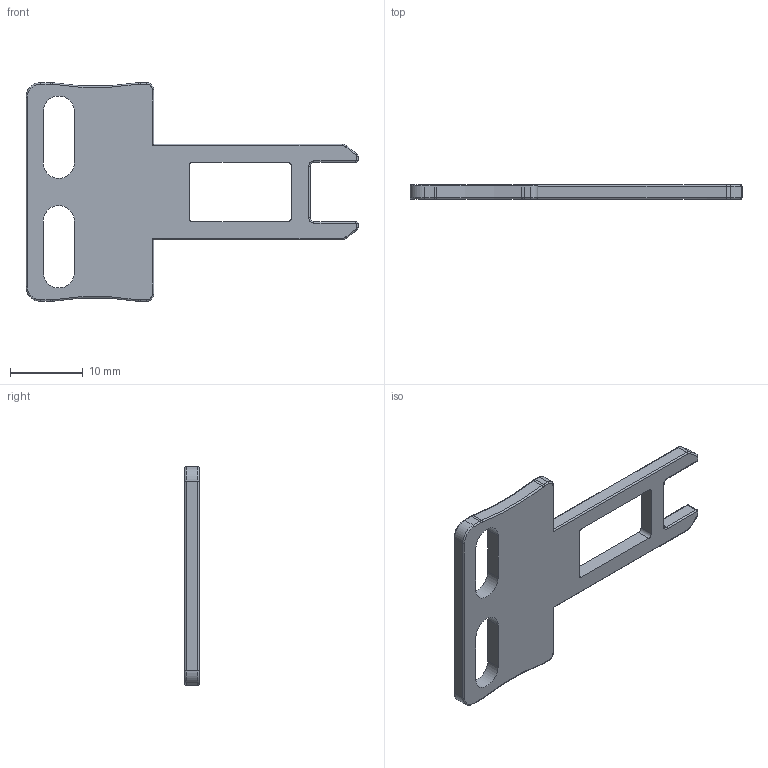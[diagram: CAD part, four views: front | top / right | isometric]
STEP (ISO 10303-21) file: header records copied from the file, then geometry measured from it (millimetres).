
FILE_DESCRIPTION((''),'2;1');
FILE_NAME('_K10001','2022-08-27T13:50:01',('林章'),(''),'CREO PARAMETRIC BY PTC INC, 2020033','CREO PARAMETRIC BY PTC INC, 2020033','');
FILE_SCHEMA(('CONFIG_CONTROL_DESIGN'));
Length unit declared in the file: millimetre
Products named in the file (1): _K10001
Bounding box: 45.5 x 2 x 30 mm (x, y, z)
Volume: 1244.3 mm3; surface area: 1734.3 mm2
Topology: 1 solids, 1 shells, 120 faces, 286 edges, 168 vertices
Faces by surface type: cylinder 58, torus 28, plane 26, bspline 8
Entity records: 3616 total; most frequent: CARTESIAN_POINT 722, DIRECTION 658, ORIENTED_EDGE 572, EDGE_CURVE 286, AXIS2_PLACEMENT_3D 264, VERTEX_POINT 168, CIRCLE 152, VECTOR 130
